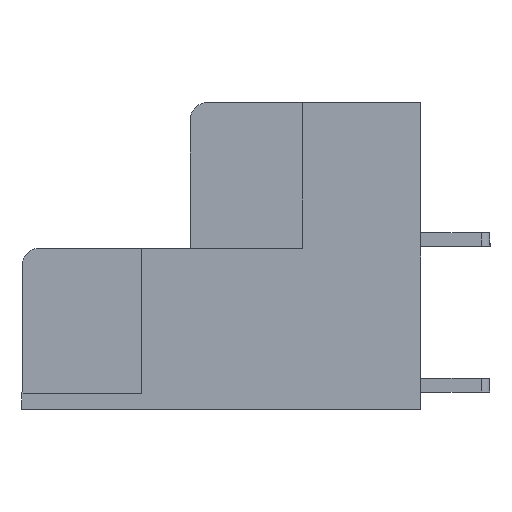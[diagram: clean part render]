
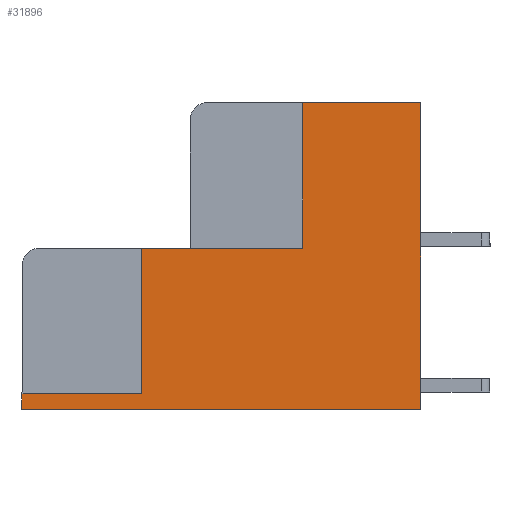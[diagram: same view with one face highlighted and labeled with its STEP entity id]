
A CAD part, left-side view. The second image highlights one B-rep face of the part: STEP entity #31896.
In plain terms, the highlighted planar face has unit normal (-1, 0, 0).
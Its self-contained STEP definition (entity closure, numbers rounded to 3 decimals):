
#1838=VERTEX_POINT('',#42502);
#1839=VERTEX_POINT('',#42504);
#1841=VERTEX_POINT('',#42510);
#1846=VERTEX_POINT('',#42523);
#1847=VERTEX_POINT('',#42525);
#1848=VERTEX_POINT('',#42530);
#1849=VERTEX_POINT('',#42532);
#1850=VERTEX_POINT('',#42534);
#5054=VECTOR('',#36089,1.);
#5058=VECTOR('',#36094,1.);
#5063=VECTOR('',#36103,1.);
#5065=VECTOR('',#36106,1.);
#5066=VECTOR('',#36107,1.);
#5067=VECTOR('',#36108,1.);
#5068=VECTOR('',#36109,1.);
#5069=VECTOR('',#36110,1.);
#8621=LINE('',#42503,#5054);
#8625=LINE('',#42511,#5058);
#8630=LINE('',#42524,#5063);
#8632=LINE('',#42528,#5065);
#8633=LINE('',#42529,#5066);
#8634=LINE('',#42531,#5067);
#8635=LINE('',#42533,#5068);
#8636=LINE('',#42535,#5069);
#12164=EDGE_CURVE('',#1838,#1839,#8621,.T.);
#12168=EDGE_CURVE('',#1841,#1838,#8625,.T.);
#12174=EDGE_CURVE('',#1846,#1847,#8630,.T.);
#12176=EDGE_CURVE('',#1839,#1846,#8632,.T.);
#12177=EDGE_CURVE('',#1848,#1841,#8633,.T.);
#12178=EDGE_CURVE('',#1849,#1848,#8634,.T.);
#12179=EDGE_CURVE('',#1850,#1849,#8635,.T.);
#12180=EDGE_CURVE('',#1847,#1850,#8636,.T.);
#17225=ORIENTED_EDGE('',*,*,#12174,.F.);
#17226=ORIENTED_EDGE('',*,*,#12176,.F.);
#17227=ORIENTED_EDGE('',*,*,#12164,.F.);
#17228=ORIENTED_EDGE('',*,*,#12168,.F.);
#17229=ORIENTED_EDGE('',*,*,#12177,.F.);
#17230=ORIENTED_EDGE('',*,*,#12178,.F.);
#17231=ORIENTED_EDGE('',*,*,#12179,.F.);
#17232=ORIENTED_EDGE('',*,*,#12180,.F.);
#27304=EDGE_LOOP('',(#17225,#17226,#17227,#17228,#17229,#17230,#17231,#17232));
#29600=FACE_BOUND('',#27304,.T.);
#31896=ADVANCED_FACE('',(#29600),#63306,.F.);
#33973=AXIS2_PLACEMENT_3D('',#42527,#36105,$);
#36089=DIRECTION('',(0.,0.,1.));
#36094=DIRECTION('',(0.,-1.,0.));
#36103=DIRECTION('',(0.,0.,1.));
#36105=DIRECTION('',(1.,0.,0.));
#36106=DIRECTION('',(0.,-1.,0.));
#36107=DIRECTION('',(0.,0.,1.));
#36108=DIRECTION('',(0.,1.,0.));
#36109=DIRECTION('',(0.,0.,-1.));
#36110=DIRECTION('',(0.,-1.,0.));
#42502=CARTESIAN_POINT('',(0.,16.1,0.9));
#42503=CARTESIAN_POINT('',(0.,16.1,0.9));
#42504=CARTESIAN_POINT('',(0.,16.1,9.3));
#42510=CARTESIAN_POINT('',(0.,23.,0.9));
#42511=CARTESIAN_POINT('',(0.,23.,0.9));
#42523=CARTESIAN_POINT('',(0.,6.8,9.3));
#42524=CARTESIAN_POINT('',(0.,6.8,9.3));
#42525=CARTESIAN_POINT('',(0.,6.8,17.7));
#42527=CARTESIAN_POINT('',(0.,3.4,13.5));
#42528=CARTESIAN_POINT('',(0.,16.1,9.3));
#42529=CARTESIAN_POINT('',(0.,23.,0.));
#42530=CARTESIAN_POINT('',(0.,23.,0.));
#42531=CARTESIAN_POINT('',(0.,0.,0.));
#42532=CARTESIAN_POINT('',(0.,0.,0.));
#42533=CARTESIAN_POINT('',(0.,0.,17.7));
#42534=CARTESIAN_POINT('',(0.,0.,17.7));
#42535=CARTESIAN_POINT('',(0.,6.8,17.7));
#63306=PLANE('',#33973);
